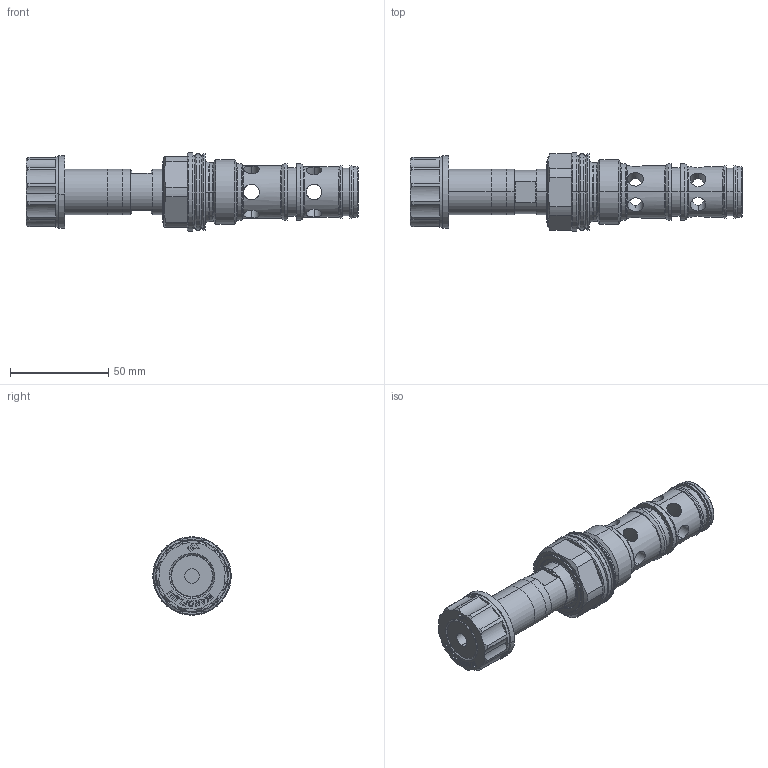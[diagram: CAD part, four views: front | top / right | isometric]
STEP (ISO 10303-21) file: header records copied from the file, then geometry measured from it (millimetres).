
FILE_DESCRIPTION (( 'STEP AP214' ), '1' );
FILE_NAME ('QDPPM22-X5.STEP', '2017-03-24T09:52:32', ( '' ), ( '' ), 'SwSTEP 2.0', 'SolidWorks 2016', '' );
FILE_SCHEMA (( 'AUTOMOTIVE_DESIGN' ));
Length unit declared in the file: millimetre
Products named in the file (1): QDPPM22-X5
Bounding box: 169.3 x 40 x 40 mm (x, y, z)
Volume: 95739.7 mm3; surface area: 34543.3 mm2
Topology: 5 solids, 5 shells, 792 faces, 1956 edges, 1205 vertices
Faces by surface type: plane 425, cylinder 188, cone 86, torus 77, bspline 16
Entity records: 33783 total; most frequent: CARTESIAN_POINT 6000, DIRECTION 4081, ORIENTED_EDGE 3912, EDGE_CURVE 1956, AXIS2_PLACEMENT_3D 1472, VERTEX_POINT 1205, VECTOR 1137, LINE 1137
